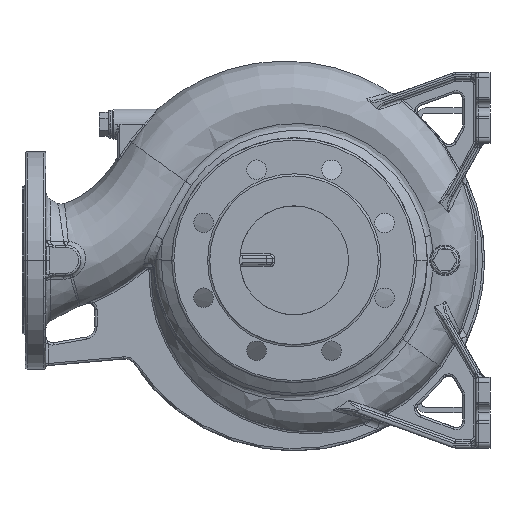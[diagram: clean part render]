
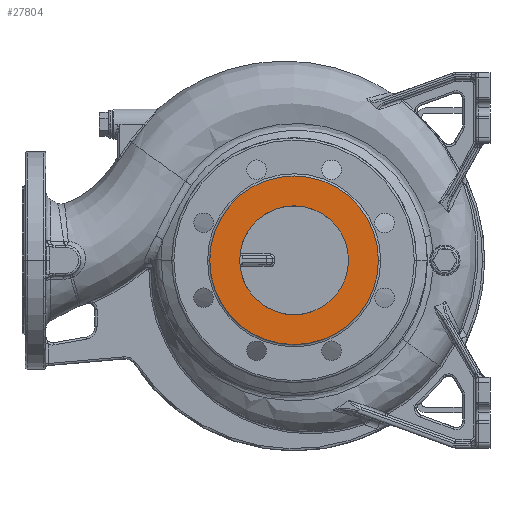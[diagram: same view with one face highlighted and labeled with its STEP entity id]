
A CAD part, front view. The second image highlights one B-rep face of the part: STEP entity #27804.
In plain terms, the highlighted planar face has unit normal (0, -1, 0).
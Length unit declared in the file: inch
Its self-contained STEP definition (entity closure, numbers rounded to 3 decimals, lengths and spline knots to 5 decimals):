
#1474 = VERTEX_POINT ( 'NONE', #114479 ) ;
#4192 = AXIS2_PLACEMENT_3D ( 'NONE', #20316, #158290, #51270 ) ;
#4789 = CARTESIAN_POINT ( 'NONE',  ( 1.9685, -10.90551, 0. ) ) ;
#5676 = DIRECTION ( 'NONE',  ( -1., 0., 0. ) ) ;
#8315 = EDGE_CURVE ( 'NONE', #180274, #161779, #29085, .T. ) ;
#20316 = CARTESIAN_POINT ( 'NONE',  ( 0., -10.90551, 0. ) ) ;
#26649 = CIRCLE ( 'NONE', #4192, 3.05118 ) ;
#27804 = ADVANCED_FACE ( 'NONE', ( #86629, #51912 ), #157938, .F. ) ;
#29085 = CIRCLE ( 'NONE', #80174, 1.9685 ) ;
#37281 = EDGE_CURVE ( 'NONE', #180274, #161779, #141262, .T. ) ;
#38275 = DIRECTION ( 'NONE',  ( -1., 0., 0. ) ) ;
#40308 = VERTEX_POINT ( 'NONE', #42219 ) ;
#42219 = CARTESIAN_POINT ( 'NONE',  ( -3.05118, -10.90551, 0. ) ) ;
#42523 = ORIENTED_EDGE ( 'NONE', *, *, #37281, .T. ) ;
#47283 = CIRCLE ( 'NONE', #111133, 3.05118 ) ;
#50915 = CARTESIAN_POINT ( 'NONE',  ( 0., -10.90551, 0. ) ) ;
#51270 = DIRECTION ( 'NONE',  ( -1., 0., 0. ) ) ;
#51912 = FACE_BOUND ( 'NONE', #192534, .T. ) ;
#53271 = DIRECTION ( 'NONE',  ( 0., -1., 0. ) ) ;
#60939 = EDGE_LOOP ( 'NONE', ( #125616, #112581 ) ) ;
#63598 = AXIS2_PLACEMENT_3D ( 'NONE', #50915, #112927, #87614 ) ;
#80174 = AXIS2_PLACEMENT_3D ( 'NONE', #176298, #53271, #38275 ) ;
#80603 = AXIS2_PLACEMENT_3D ( 'NONE', #127711, #142726, #5676 ) ;
#83095 = EDGE_CURVE ( 'NONE', #40308, #1474, #47283, .T. ) ;
#86629 = FACE_OUTER_BOUND ( 'NONE', #60939, .T. ) ;
#87614 = DIRECTION ( 'NONE',  ( 1., 0., 0. ) ) ;
#95935 = ORIENTED_EDGE ( 'NONE', *, *, #8315, .F. ) ;
#111133 = AXIS2_PLACEMENT_3D ( 'NONE', #148521, #195487, #160571 ) ;
#112581 = ORIENTED_EDGE ( 'NONE', *, *, #188368, .T. ) ;
#112927 = DIRECTION ( 'NONE',  ( 0., 1., 0. ) ) ;
#114479 = CARTESIAN_POINT ( 'NONE',  ( 3.05118, -10.90551, 0. ) ) ;
#125616 = ORIENTED_EDGE ( 'NONE', *, *, #83095, .F. ) ;
#127711 = CARTESIAN_POINT ( 'NONE',  ( 0., -10.90551, 0. ) ) ;
#141262 = CIRCLE ( 'NONE', #80603, 1.9685 ) ;
#142726 = DIRECTION ( 'NONE',  ( 0., 1., 0. ) ) ;
#143572 = CARTESIAN_POINT ( 'NONE',  ( -1.9685, -10.90551, 0. ) ) ;
#148521 = CARTESIAN_POINT ( 'NONE',  ( 0., -10.90551, 0. ) ) ;
#157938 = PLANE ( 'NONE',  #63598 ) ;
#158290 = DIRECTION ( 'NONE',  ( 0., -1., 0. ) ) ;
#160571 = DIRECTION ( 'NONE',  ( -1., 0., 0. ) ) ;
#161779 = VERTEX_POINT ( 'NONE', #4789 ) ;
#176298 = CARTESIAN_POINT ( 'NONE',  ( 0., -10.90551, 0. ) ) ;
#180274 = VERTEX_POINT ( 'NONE', #143572 ) ;
#188368 = EDGE_CURVE ( 'NONE', #40308, #1474, #26649, .T. ) ;
#192534 = EDGE_LOOP ( 'NONE', ( #95935, #42523 ) ) ;
#195487 = DIRECTION ( 'NONE',  ( 0., 1., 0. ) ) ;
